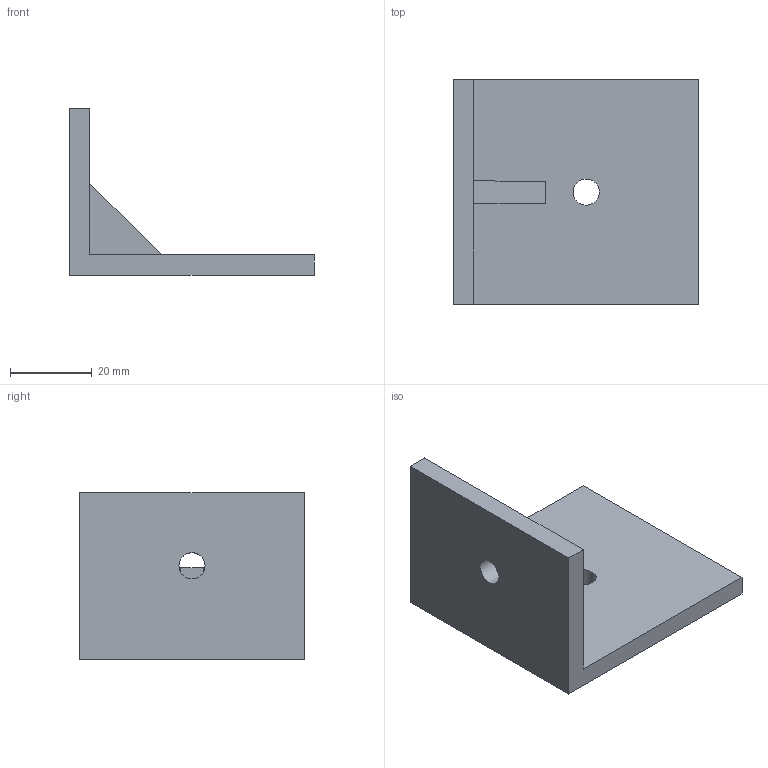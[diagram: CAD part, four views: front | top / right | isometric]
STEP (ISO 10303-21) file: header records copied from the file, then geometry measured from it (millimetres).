
FILE_DESCRIPTION(('Mechanical CAD reference from nasji.com'),'2;1');
FILE_NAME('NASJI.step','',(''),(''),'','NASJI distribution','');
FILE_SCHEMA(('AUTOMOTIVE_DESIGN { 1 0 10303 214 1 1 1 1 }'));
Length unit declared in the file: millimetre
Products named in the file (1): Open CASCADE STEP translator 7.8 157
Bounding box: 60 x 55 x 40.8 mm (x, y, z)
Volume: 26844.5 mm3; surface area: 12392.2 mm2
Topology: 1 solids, 1 shells, 14 faces, 37 edges, 24 vertices
Faces by surface type: plane 12, cylinder 2
Full cylindrical faces by diameter (mm): 6.4 x2
Entity records: 935 total; most frequent: CARTESIAN_POINT 172, DIRECTION 140, LINE 95, VECTOR 95, ORIENTED_EDGE 74, PCURVE 74, DEFINITIONAL_REPRESENTATION 74, EDGE_CURVE 37
